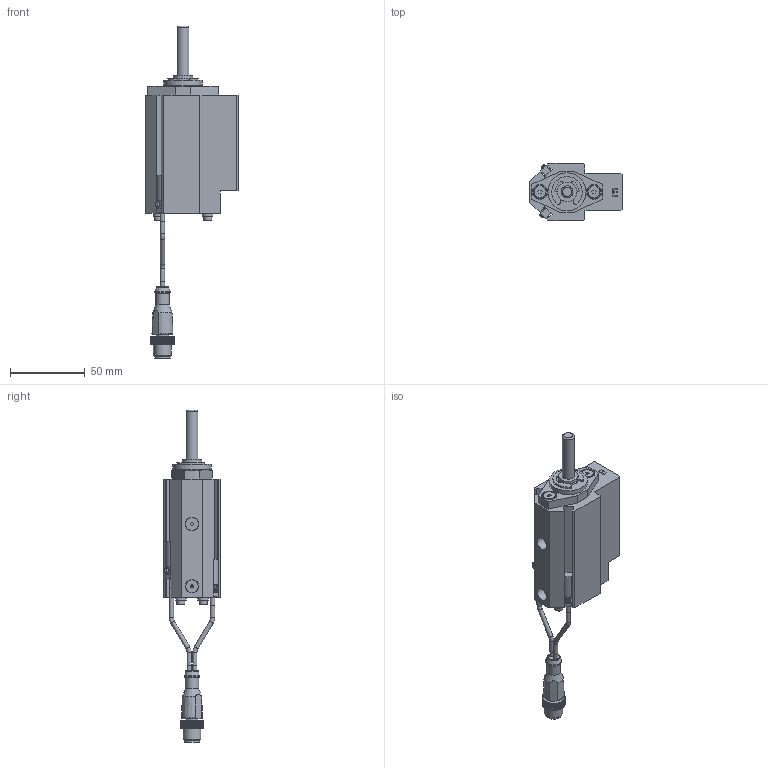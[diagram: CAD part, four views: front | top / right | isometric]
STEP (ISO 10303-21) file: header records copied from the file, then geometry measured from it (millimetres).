
FILE_DESCRIPTION(/* description */ ('NAAMS FLOATING MICRO PIN'),/* implementation_level */ '2;1');
FILE_NAME(/* name */ 'C:\Vault Workspace\CAD\Welker\Shot Pin\NMP\NMP080032EENL3.stp',/* time_stamp */ '2021-01-28T11:54:31-05:00',/* author */ ('WELKER'),/* organization */ (''),/* preprocessor_version */ 'ST-DEVELOPER v18.1',/* originating_system */ 'Autodesk Inventor 2020',/* authorisation */ '');
FILE_SCHEMA (('AUTOMOTIVE_DESIGN { 1 0 10303 214 3 1 1 }'));
Length unit declared in the file: millimetre
Products named in the file (16): NMPL01; NMP L3 SWITCH; L3 Connector; L3 Sensor 1; L3 Sensor 2; L3 Sensor cable; L3 Sensor cable 2; M3X0.5-8 SHCS; NL3; NMPE06; NMPE03; NMPE04-DIA-LENGTH; 985432A218; NMPE01E-PORT; RMPE02; M5X5 SHOULDER
Assembly tree (22 placements, depth 3):
  NMPL01
    NMP L3 SWITCH
      L3 Connector
      L3 Sensor 1
      L3 Sensor 2
      L3 Sensor cable
      L3 Sensor cable 2
    M3X0.5-8 SHCS  x4
    NL3  x4
    NMPE06
    NMPE03
    NMPE04-DIA-LENGTH
    985432A218
    NMPE01E-PORT
    RMPE02
    M5X5 SHOULDER  x2
Bounding box: 62 x 38.1 x 221.52 mm (x, y, z)
Volume: 113863.4 mm3; surface area: 44962.3 mm2
Topology: 21 solids, 21 shells, 748 faces, 2027 edges, 1354 vertices
Faces by surface type: plane 554, cylinder 144, cone 35, torus 11, bspline 2, sphere 2
Full cylindrical faces by diameter (mm): 2 x2, 2.459 x4, 2.9 x10, 3 x5, 3.242 x2, 3.4 x4, 4 x2, 5 x6, 5.5 x4, 6.647 x2, 7 x4, 8 x3, 8.3 x2, 9 x3, 10 x3, 10.4 x1, 10.5 x1, 12 x1, 13 x3, 16 x2, 19.05 x3, 21 x1, 22.5 x1, 23.672 x1, 24 x1, 25.4 x1, 25.5 x1, 26.5 x1, 28.677 x1, 29.21 x1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
Entity records: 22829 total; most frequent: CARTESIAN_POINT 4175, ORIENTED_EDGE 3746, DIRECTION 3730, EDGE_CURVE 1873, LINE 1388, VECTOR 1388, VERTEX_POINT 1259, AXIS2_PLACEMENT_3D 1171
